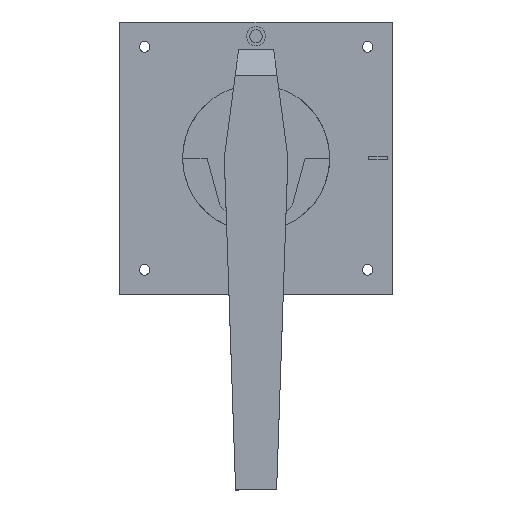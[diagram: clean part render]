
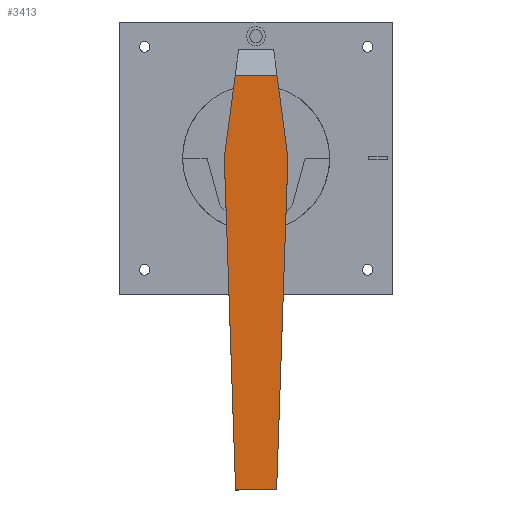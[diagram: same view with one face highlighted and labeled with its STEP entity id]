
A CAD part, top view. The second image highlights one B-rep face of the part: STEP entity #3413.
In plain terms, the highlighted planar face has unit normal (0, 0, 1).
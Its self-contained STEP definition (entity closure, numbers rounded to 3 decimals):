
#21 = CARTESIAN_POINT ( 'NONE',  ( 230.95, 20.2, 403.35 ) ) ;
#90 = DIRECTION ( 'NONE',  ( -0.131, 0.991, 0. ) ) ;
#220 = CARTESIAN_POINT ( 'NONE',  ( 255.81, 178., 403.35 ) ) ;
#287 = VECTOR ( 'NONE', #2471, 1000. ) ;
#303 = LINE ( 'NONE', #21, #287 ) ;
#306 = VERTEX_POINT ( 'NONE', #866 ) ;
#325 = VERTEX_POINT ( 'NONE', #1142 ) ;
#511 = DIRECTION ( 'NONE',  ( 0.034, 0.999, 0. ) ) ;
#518 = VECTOR ( 'NONE', #2869, 1000. ) ;
#526 = DIRECTION ( 'NONE',  ( -1., 0., 0. ) ) ;
#529 = LINE ( 'NONE', #3017, #518 ) ;
#553 = VECTOR ( 'NONE', #511, 1000. ) ;
#576 = LINE ( 'NONE', #220, #553 ) ;
#733 = CARTESIAN_POINT ( 'NONE',  ( 250.63, 217.35, 403.35 ) ) ;
#758 = VERTEX_POINT ( 'NONE', #1084 ) ;
#785 = VERTEX_POINT ( 'NONE', #3034 ) ;
#791 = CARTESIAN_POINT ( 'NONE',  ( 249.05, 229.35, 403.35 ) ) ;
#866 = CARTESIAN_POINT ( 'NONE',  ( 225.59, 178., 403.35 ) ) ;
#870 = VECTOR ( 'NONE', #526, 1000. ) ;
#905 = LINE ( 'NONE', #3692, #870 ) ;
#1084 = CARTESIAN_POINT ( 'NONE',  ( 250.45, 20.2, 403.35 ) ) ;
#1142 = CARTESIAN_POINT ( 'NONE',  ( 255.81, 178., 403.35 ) ) ;
#1274 = DIRECTION ( 'NONE',  ( -1., 0., 0. ) ) ;
#1314 = FACE_OUTER_BOUND ( 'NONE', #2865, .T. ) ;
#1373 = ORIENTED_EDGE ( 'NONE', *, *, #3245, .T. ) ;
#1431 = CARTESIAN_POINT ( 'NONE',  ( 230.77, 217.35, 403.35 ) ) ;
#1655 = DIRECTION ( 'NONE',  ( 0., 0., -1. ) ) ;
#1735 = VECTOR ( 'NONE', #2359, 1000. ) ;
#1746 = LINE ( 'NONE', #3361, #1735 ) ;
#1766 = ORIENTED_EDGE ( 'NONE', *, *, #3727, .T. ) ;
#1930 = VERTEX_POINT ( 'NONE', #733 ) ;
#1980 = ORIENTED_EDGE ( 'NONE', *, *, #3826, .T. ) ;
#2059 = VECTOR ( 'NONE', #90, 1000. ) ;
#2087 = LINE ( 'NONE', #791, #2059 ) ;
#2094 = ORIENTED_EDGE ( 'NONE', *, *, #3714, .T. ) ;
#2135 = AXIS2_PLACEMENT_3D ( 'NONE', #3210, #1655, #1274 ) ;
#2173 = PLANE ( 'NONE',  #2135 ) ;
#2237 = ORIENTED_EDGE ( 'NONE', *, *, #3576, .T. ) ;
#2308 = VERTEX_POINT ( 'NONE', #1431 ) ;
#2359 = DIRECTION ( 'NONE',  ( 0.034, -0.999, 0. ) ) ;
#2471 = DIRECTION ( 'NONE',  ( 1., 0., 0. ) ) ;
#2865 = EDGE_LOOP ( 'NONE', ( #3647, #2237, #1766, #1373, #1980, #2094 ) ) ;
#2869 = DIRECTION ( 'NONE',  ( -0.131, -0.991, 0. ) ) ;
#3017 = CARTESIAN_POINT ( 'NONE',  ( 232.35, 229.35, 403.35 ) ) ;
#3034 = CARTESIAN_POINT ( 'NONE',  ( 230.95, 20.2, 403.35 ) ) ;
#3139 = EDGE_CURVE ( 'NONE', #325, #1930, #2087, .T. ) ;
#3210 = CARTESIAN_POINT ( 'NONE',  ( 0., 0., 403.35 ) ) ;
#3245 = EDGE_CURVE ( 'NONE', #306, #785, #1746, .T. ) ;
#3361 = CARTESIAN_POINT ( 'NONE',  ( 225.59, 178., 403.35 ) ) ;
#3413 = ADVANCED_FACE ( 'NONE', ( #1314 ), #2173, .F. ) ;
#3576 = EDGE_CURVE ( 'NONE', #1930, #2308, #905, .T. ) ;
#3647 = ORIENTED_EDGE ( 'NONE', *, *, #3139, .T. ) ;
#3692 = CARTESIAN_POINT ( 'NONE',  ( 0., 217.35, 403.35 ) ) ;
#3714 = EDGE_CURVE ( 'NONE', #758, #325, #576, .T. ) ;
#3727 = EDGE_CURVE ( 'NONE', #2308, #306, #529, .T. ) ;
#3826 = EDGE_CURVE ( 'NONE', #785, #758, #303, .T. ) ;
